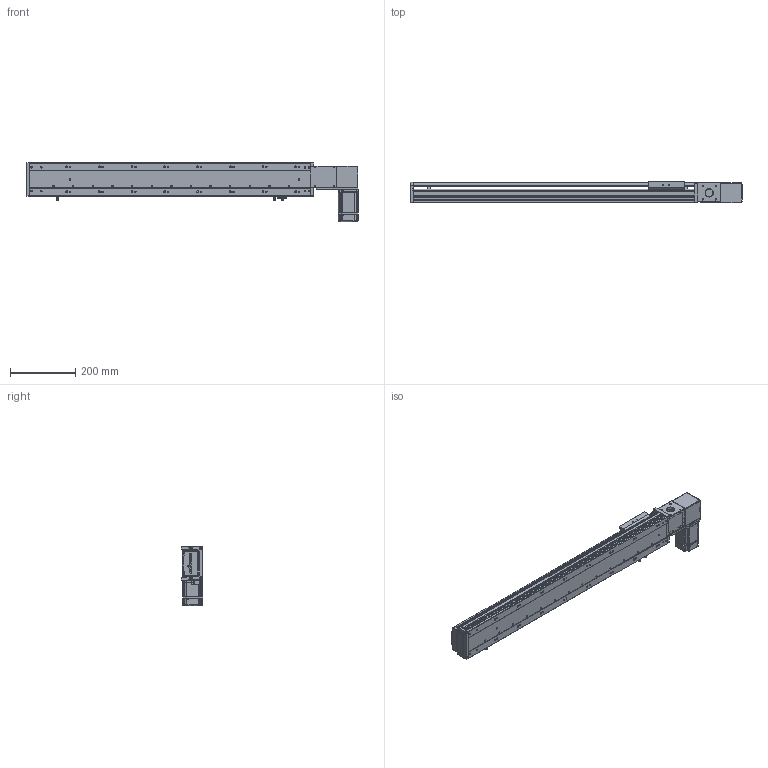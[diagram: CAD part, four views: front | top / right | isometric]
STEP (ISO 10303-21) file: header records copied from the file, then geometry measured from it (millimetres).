
FILE_DESCRIPTION (( 'STEP AP203' ), '1' );
FILE_NAME ('RY100-T-300-LK.SLDASM_650.step', '2024-04-25T05:37:02', ( '盈信电脑' ), ( '东莞市道滘镇水果街19号' ), 'SwSTEP 2.0', 'SolidWorks 2016', '' );
FILE_SCHEMA (( 'CONFIG_CONTROL_DESIGN' ));
Length unit declared in the file: millimetre
Products named in the file (13): RY100綴裔啣; RY80-T肮祭謫俋欶; RY100-T-300-RK倰第奻裔_650; RY100俋离覜茼え; RY100-T-300-LK.SLDASM_650; 1; 覜茼ん672; RY100-T肮祭謫翋盓傅釱; RY100-T翋肮祭謫裔啣2; 滅袉蝶18-10; RY100-T左右折电机安装板; RY100-T-300-RK倰第菁釱_650; RY100-T肮祭謫臏賑輸
Assembly tree (16 placements, depth 2):
  RY100-T-300-LK.SLDASM_650
    RY100-T-300-RK倰第菁釱_650
    RY100-T-300-RK倰第奻裔_650
    RY100-T肮祭謫臏賑輸
    RY100綴裔啣
    覜茼ん672  x3
    RY100俋离覜茼え
    RY100-T肮祭謫翋盓傅釱
    滅袉蝶18-10  x2
    RY100-T翋肮祭謫裔啣2  x2
    RY80-T肮祭謫俋欶
    RY100-T左右折电机安装板
    1
Bounding box: 1014 x 66 x 182.5 mm (x, y, z)
Volume: 2051351.1 mm3; surface area: 824711.3 mm2
Topology: 16 solids, 16 shells, 2160 faces, 6032 edges, 3920 vertices
Faces by surface type: plane 1178, cylinder 771, cone 133, bspline 78
Entity records: 69052 total; most frequent: CARTESIAN_POINT 16913, ORIENTED_EDGE 10800, DIRECTION 10212, EDGE_CURVE 5400, VERTEX_POINT 3556, LINE 3500, VECTOR 3500, AXIS2_PLACEMENT_3D 3356
